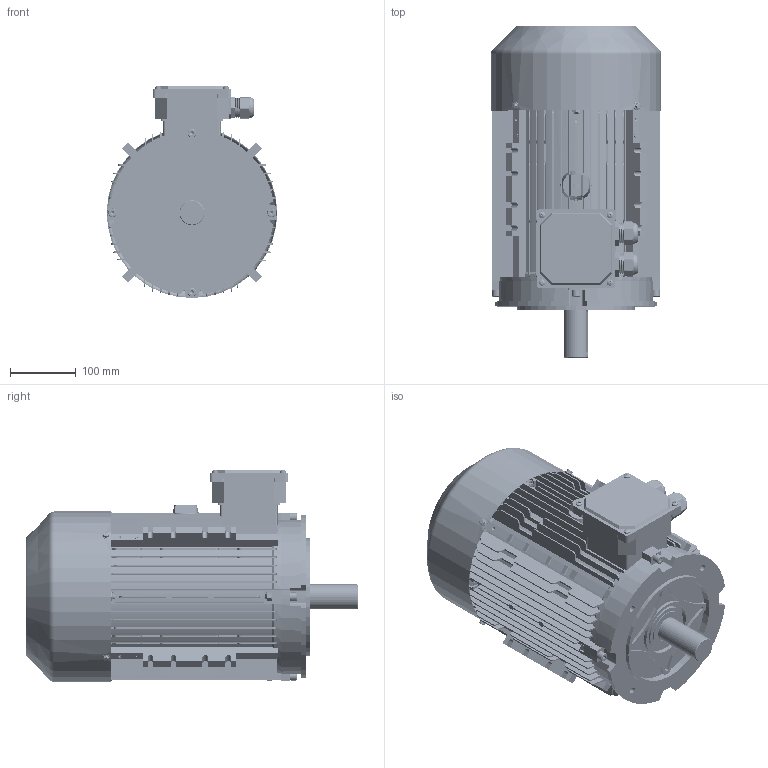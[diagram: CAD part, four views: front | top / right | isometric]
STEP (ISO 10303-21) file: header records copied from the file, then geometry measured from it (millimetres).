
FILE_DESCRIPTION (( 'STEP AP203' ), '1' );
FILE_NAME ('ME3-132M B14B 3D.STEP', '2024-07-27T02:01:56', ( 'User' ), ( 'China' ), 'SwSTEP 2.0', 'SolidWorks 2018', '' );
FILE_SCHEMA (( 'CONFIG_CONTROL_DESIGN' ));
Length unit declared in the file: millimetre
Products named in the file (18): ME3-132 B14B傷裔; hexagon socket head cap screws gb_GB_FASTENER_SCREWS_HSHCS M8X30-S; ME3-132M儂褲; ME3-132M B14B  3D; hexagon socket head cap screws gb_GB_FASTENER_SCREWS_HSHCS M8X40-S; ME3-132 B3傷裔; hex nuts-style normal-grades ab gb_GB_HEXAGON_TYPE10 M8X1-S; deep groove ball bearings gb_Rolling bearings 6308 GB 276-94; ME3-132瑞欶; ME3-132M蛌粣; hex flange bolts-heavy grade b gb_GB_FASTENER_BOLT_HFBB M5X10-S; MS112-132 諉盄碟釱; MS112-132諉盄碟裔; M24 蹟杶; cross recessed pan head screws gb_GB_CROSS_SCREWS_TYPE1 M5X6-6  H type-S; M24 蹟杶簸; 40X58X7蚐猾; spring lock washers--normal type gb_GB_FASTENER_WASHER_SW 8
Assembly tree (41 placements, depth 2):
  ME3-132M B14B  3D
    ME3-132M儂褲
    ME3-132 B3傷裔
    deep groove ball bearings gb_Rolling bearings 6308 GB 276-94  x2
    ME3-132M蛌粣
    MS112-132 諉盄碟釱
    M24 蹟杶  x2
    M24 蹟杶簸  x2
    spring lock washers--normal type gb_GB_FASTENER_WASHER_SW 8  x4
    hexagon socket head cap screws gb_GB_FASTENER_SCREWS_HSHCS M8X30-S
    hexagon socket head cap screws gb_GB_FASTENER_SCREWS_HSHCS M8X40-S  x7
    hex nuts-style normal-grades ab gb_GB_HEXAGON_TYPE10 M8X1-S  x7
    ME3-132瑞欶
    hex flange bolts-heavy grade b gb_GB_FASTENER_BOLT_HFBB M5X10-S  x4
    MS112-132諉盄碟裔
    cross recessed pan head screws gb_GB_CROSS_SCREWS_TYPE1 M5X6-6  H type-S  x4
    40X58X7蚐猾
    ME3-132 B14B傷裔
Bounding box: 259.6 x 505.15 x 322.8 mm (x, y, z)
Volume: 3674052.4 mm3; surface area: 1822570.9 mm2
Topology: 43 solids, 44 shells, 6384 faces, 15996 edges, 9670 vertices
Faces by surface type: plane 2181, cone 2089, cylinder 1776, torus 224, sphere 68, bspline 46
Entity records: 132239 total; most frequent: CARTESIAN_POINT 33845, ORIENTED_EDGE 20628, DIRECTION 19238, EDGE_CURVE 10314, VERTEX_POINT 6590, LINE 6430, VECTOR 6430, AXIS2_PLACEMENT_3D 6404
